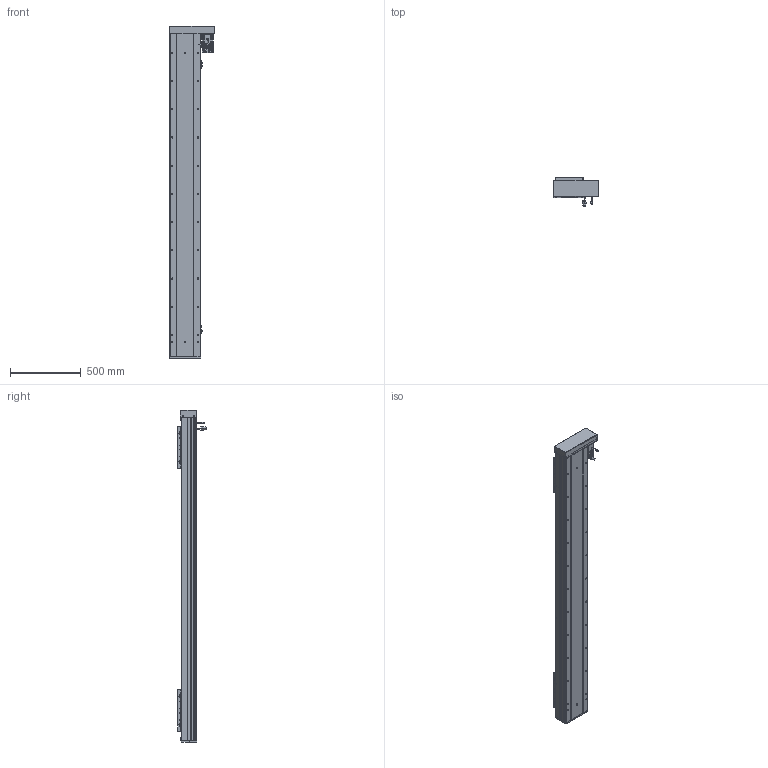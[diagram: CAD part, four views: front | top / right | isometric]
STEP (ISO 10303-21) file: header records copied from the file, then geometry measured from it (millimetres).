
FILE_DESCRIPTION (( 'STEP AP203' ), '1' );
FILE_NAME ('RY220F-L2525-800-RK-邧嶺.SLDASM_1850.step', '2022-08-06T08:19:56', ( '' ), ( '' ), 'SwSTEP 2.0', 'SolidWorks 2016', '' );
FILE_SCHEMA (( 'CONFIG_CONTROL_DESIGN' ));
Length unit declared in the file: millimetre
Products named in the file (15): RY220F綴裔啣; RY220F-祥凄詩湍-蛌殏-800_1850; RY220左右折电机安装板; RY220酘衵殏萇儂欶; 滅袉蝶18-24; RY220F-詩湍揤踡輸; RY220F-672覜茼んえ; 怢湛750W_ECMA-CX0807ES; RY220F-L2525-800-RK-邧嶺.SLDASM_1850; 覜茼ん672; 侐源滅袉蝶; RY220F-滅鳥奻裔; RY220F蛌殏菁釱-800-邧嶺_1850; RY220F-蛌殏奻裔啣-800_1850; RY220F臏賑釱25-32佪裝
Assembly tree (24 placements, depth 2):
  RY220F-L2525-800-RK-邧嶺.SLDASM_1850
    RY220F蛌殏菁釱-800-邧嶺_1850
    RY220F-蛌殏奻裔啣-800_1850  x2
    怢湛750W_ECMA-CX0807ES
    RY220F臏賑釱25-32佪裝  x2
    RY220F-滅鳥奻裔  x2
    滅袉蝶18-24  x3
    RY220F綴裔啣
    RY220F-祥凄詩湍-蛌殏-800_1850
    RY220F-詩湍揤踡輸  x2
    覜茼ん672  x3
    RY220F-672覜茼んえ  x2
    RY220左右折电机安装板
    RY220酘衵殏萇儂欶
    侐源滅袉蝶  x2
Bounding box: 317.5 x 205.27 x 2353 mm (x, y, z)
Volume: 20238908.9 mm3; surface area: 5390476.2 mm2
Topology: 25 solids, 25 shells, 2884 faces, 7828 edges, 4818 vertices
Faces by surface type: cylinder 1314, plane 1044, cone 455, bspline 45, sphere 16, torus 10
Entity records: 71880 total; most frequent: CARTESIAN_POINT 19167, ORIENTED_EDGE 10606, DIRECTION 10444, EDGE_CURVE 5303, AXIS2_PLACEMENT_3D 3746, VERTEX_POINT 3434, VECTOR 2952, LINE 2952
